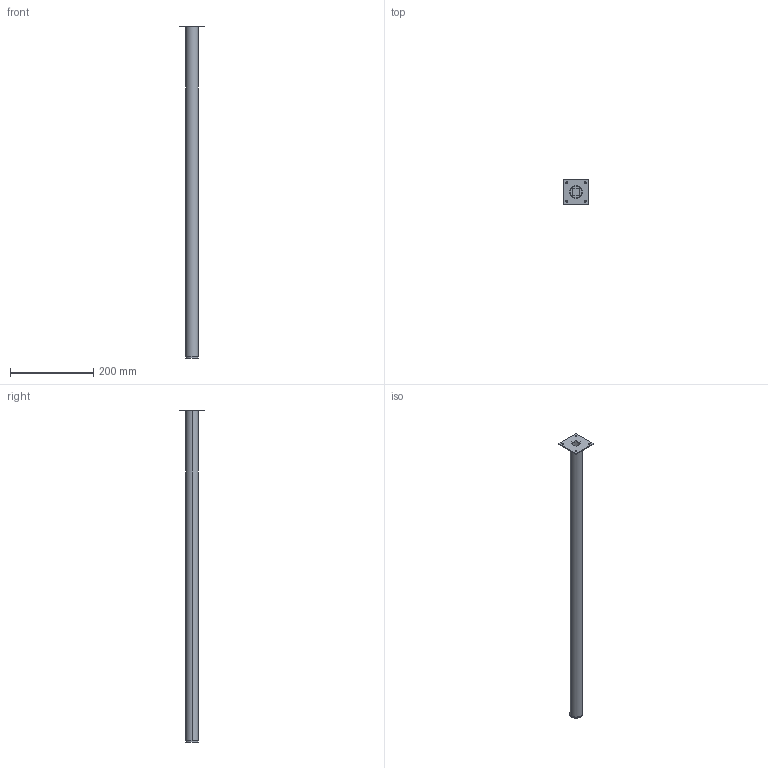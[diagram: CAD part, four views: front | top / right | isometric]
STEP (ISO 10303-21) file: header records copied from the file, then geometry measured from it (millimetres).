
FILE_DESCRIPTION( ( '' ), '1' );
FILE_NAME( 'D:/temp/hettich_stp/hettich/6.5_furniture_legs/table_legs/16861.stp', '2013-02-26T12:27:28', ( '' ), ( '' ), ' ', ' ', ' ' );
FILE_SCHEMA( ( 'automotive_design' ) );
Length unit declared in the file: millimetre
Products named in the file (1): 1
Bounding box: 60 x 60 x 800 mm (x, y, z)
Volume: 81112.6 mm3; surface area: 153834.6 mm2
Topology: 1 solids, 1 shells, 35 faces, 84 edges, 56 vertices
Faces by surface type: cylinder 20, plane 15
Entity records: 2058 total; most frequent: DIRECTION 196, STYLED_ITEM 176, PRESENTATION_STYLE_ASSIGNMENT 176, CARTESIAN_POINT 176, COLOUR_RGB 176, ORIENTED_EDGE 168, EDGE_CURVE 84, CURVE_STYLE 84
